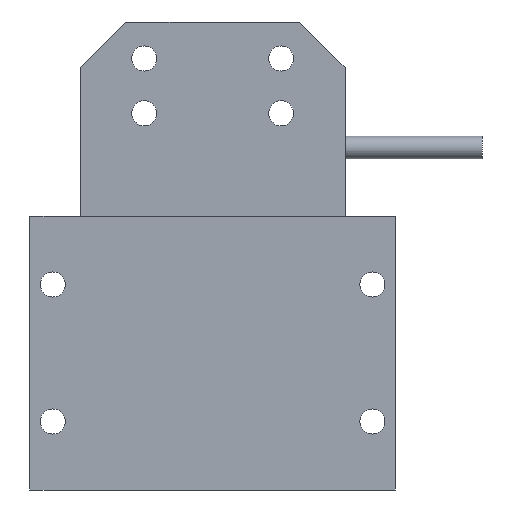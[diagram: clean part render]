
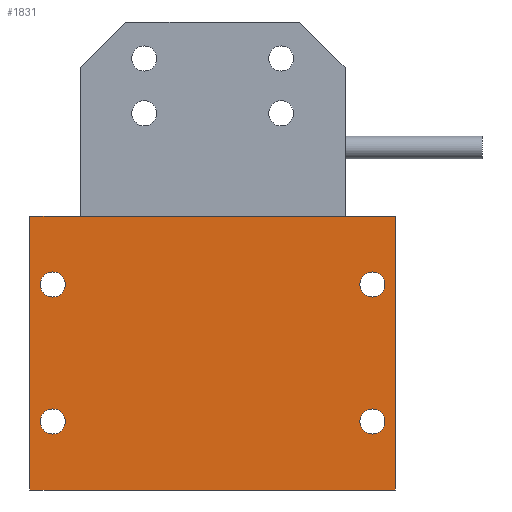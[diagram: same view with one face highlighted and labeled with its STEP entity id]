
A CAD part, front view. The second image highlights one B-rep face of the part: STEP entity #1831.
In plain terms, the highlighted planar face has unit normal (0, -1, 0).
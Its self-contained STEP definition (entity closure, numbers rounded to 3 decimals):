
#22 = DIRECTION ( 'NONE',  ( 0., 1., 0. ) ) ;
#26 = FACE_BOUND ( 'NONE', #895, .T. ) ;
#96 = CARTESIAN_POINT ( 'NONE',  ( 35., -20.25, 45. ) ) ;
#136 = DIRECTION ( 'NONE',  ( 0., 0., 1. ) ) ;
#147 = PLANE ( 'NONE',  #1063 ) ;
#204 = CARTESIAN_POINT ( 'NONE',  ( 35., -20.25, 42.25 ) ) ;
#235 = ORIENTED_EDGE ( 'NONE', *, *, #1340, .F. ) ;
#238 = CARTESIAN_POINT ( 'NONE',  ( -35., -20.25, 12.25 ) ) ;
#245 = FACE_BOUND ( 'NONE', #1366, .T. ) ;
#330 = CIRCLE ( 'NONE', #2151, 2.75 ) ;
#332 = DIRECTION ( 'NONE',  ( 0., 1., 0. ) ) ;
#340 = DIRECTION ( 'NONE',  ( 0., 0., 1. ) ) ;
#350 = DIRECTION ( 'NONE',  ( 0., 1., 0. ) ) ;
#355 = CARTESIAN_POINT ( 'NONE',  ( 40., -20.25, 0. ) ) ;
#385 = VERTEX_POINT ( 'NONE', #2194 ) ;
#392 = CARTESIAN_POINT ( 'NONE',  ( 35., -20.25, 15. ) ) ;
#424 = AXIS2_PLACEMENT_3D ( 'NONE', #965, #1707, #340 ) ;
#426 = CARTESIAN_POINT ( 'NONE',  ( -35., -20.25, 15. ) ) ;
#438 = VERTEX_POINT ( 'NONE', #1261 ) ;
#439 = AXIS2_PLACEMENT_3D ( 'NONE', #2263, #1879, #2271 ) ;
#472 = CIRCLE ( 'NONE', #913, 2.75 ) ;
#486 = VERTEX_POINT ( 'NONE', #1355 ) ;
#496 = EDGE_LOOP ( 'NONE', ( #1827, #989 ) ) ;
#513 = CARTESIAN_POINT ( 'NONE',  ( -40., -20.25, 60. ) ) ;
#519 = DIRECTION ( 'NONE',  ( -1., 0., 0. ) ) ;
#541 = EDGE_CURVE ( 'NONE', #1881, #1040, #1829, .T. ) ;
#563 = CIRCLE ( 'NONE', #1987, 2.75 ) ;
#587 = CARTESIAN_POINT ( 'NONE',  ( -35., -20.25, 45. ) ) ;
#594 = VECTOR ( 'NONE', #1272, 1000. ) ;
#601 = CARTESIAN_POINT ( 'NONE',  ( -35., -20.25, 15. ) ) ;
#604 = VERTEX_POINT ( 'NONE', #1082 ) ;
#605 = DIRECTION ( 'NONE',  ( 0., 0., 1. ) ) ;
#677 = ORIENTED_EDGE ( 'NONE', *, *, #541, .T. ) ;
#690 = DIRECTION ( 'NONE',  ( 0., 1., 0. ) ) ;
#700 = EDGE_CURVE ( 'NONE', #1499, #1503, #472, .T. ) ;
#712 = VECTOR ( 'NONE', #739, 1000. ) ;
#739 = DIRECTION ( 'NONE',  ( 1., 0., 0. ) ) ;
#780 = VECTOR ( 'NONE', #1429, 1000. ) ;
#781 = CARTESIAN_POINT ( 'NONE',  ( -35., -20.25, 17.75 ) ) ;
#837 = DIRECTION ( 'NONE',  ( 0., 0., 1. ) ) ;
#860 = EDGE_LOOP ( 'NONE', ( #1439, #1041, #235, #1085 ) ) ;
#878 = EDGE_CURVE ( 'NONE', #943, #385, #1158, .T. ) ;
#894 = VERTEX_POINT ( 'NONE', #1133 ) ;
#895 = EDGE_LOOP ( 'NONE', ( #677, #1264 ) ) ;
#913 = AXIS2_PLACEMENT_3D ( 'NONE', #426, #1729, #605 ) ;
#920 = EDGE_CURVE ( 'NONE', #486, #1913, #1213, .T. ) ;
#939 = LINE ( 'NONE', #513, #594 ) ;
#943 = VERTEX_POINT ( 'NONE', #1321 ) ;
#965 = CARTESIAN_POINT ( 'NONE',  ( -35., -20.25, 45. ) ) ;
#989 = ORIENTED_EDGE ( 'NONE', *, *, #1163, .T. ) ;
#1001 = DIRECTION ( 'NONE',  ( 0., 0., 1. ) ) ;
#1035 = ORIENTED_EDGE ( 'NONE', *, *, #700, .T. ) ;
#1040 = VERTEX_POINT ( 'NONE', #1068 ) ;
#1041 = ORIENTED_EDGE ( 'NONE', *, *, #1521, .F. ) ;
#1063 = AXIS2_PLACEMENT_3D ( 'NONE', #1894, #332, #519 ) ;
#1068 = CARTESIAN_POINT ( 'NONE',  ( -35., -20.25, 42.25 ) ) ;
#1082 = CARTESIAN_POINT ( 'NONE',  ( -40., -20.25, 60. ) ) ;
#1084 = AXIS2_PLACEMENT_3D ( 'NONE', #587, #22, #1001 ) ;
#1085 = ORIENTED_EDGE ( 'NONE', *, *, #1286, .T. ) ;
#1089 = EDGE_CURVE ( 'NONE', #438, #2097, #1950, .T. ) ;
#1090 = CARTESIAN_POINT ( 'NONE',  ( 40., -20.25, 60. ) ) ;
#1115 = AXIS2_PLACEMENT_3D ( 'NONE', #392, #350, #1644 ) ;
#1133 = CARTESIAN_POINT ( 'NONE',  ( 40., -20.25, 60. ) ) ;
#1158 = CIRCLE ( 'NONE', #439, 2.75 ) ;
#1163 = EDGE_CURVE ( 'NONE', #2097, #438, #563, .T. ) ;
#1175 = DIRECTION ( 'NONE',  ( 0., 0., -1. ) ) ;
#1213 = LINE ( 'NONE', #355, #712 ) ;
#1254 = FACE_BOUND ( 'NONE', #496, .T. ) ;
#1261 = CARTESIAN_POINT ( 'NONE',  ( 35., -20.25, 47.75 ) ) ;
#1264 = ORIENTED_EDGE ( 'NONE', *, *, #1839, .T. ) ;
#1272 = DIRECTION ( 'NONE',  ( 0., 0., -1. ) ) ;
#1286 = EDGE_CURVE ( 'NONE', #604, #486, #939, .T. ) ;
#1289 = LINE ( 'NONE', #1090, #780 ) ;
#1321 = CARTESIAN_POINT ( 'NONE',  ( 35., -20.25, 17.75 ) ) ;
#1340 = EDGE_CURVE ( 'NONE', #604, #894, #1289, .T. ) ;
#1355 = CARTESIAN_POINT ( 'NONE',  ( -40., -20.25, 0. ) ) ;
#1366 = EDGE_LOOP ( 'NONE', ( #2004, #2306 ) ) ;
#1429 = DIRECTION ( 'NONE',  ( 1., 0., 0. ) ) ;
#1439 = ORIENTED_EDGE ( 'NONE', *, *, #920, .T. ) ;
#1463 = CARTESIAN_POINT ( 'NONE',  ( 35., -20.25, 45. ) ) ;
#1493 = ORIENTED_EDGE ( 'NONE', *, *, #2061, .T. ) ;
#1499 = VERTEX_POINT ( 'NONE', #781 ) ;
#1502 = EDGE_LOOP ( 'NONE', ( #1035, #1493 ) ) ;
#1503 = VERTEX_POINT ( 'NONE', #238 ) ;
#1521 = EDGE_CURVE ( 'NONE', #894, #1913, #2102, .T. ) ;
#1597 = VECTOR ( 'NONE', #1175, 1000. ) ;
#1625 = CIRCLE ( 'NONE', #1115, 2.75 ) ;
#1644 = DIRECTION ( 'NONE',  ( 0., 0., 1. ) ) ;
#1707 = DIRECTION ( 'NONE',  ( 0., 1., 0. ) ) ;
#1722 = EDGE_CURVE ( 'NONE', #385, #943, #1625, .T. ) ;
#1729 = DIRECTION ( 'NONE',  ( 0., 1., 0. ) ) ;
#1790 = AXIS2_PLACEMENT_3D ( 'NONE', #1463, #690, #136 ) ;
#1827 = ORIENTED_EDGE ( 'NONE', *, *, #1089, .T. ) ;
#1829 = CIRCLE ( 'NONE', #1084, 2.75 ) ;
#1831 = ADVANCED_FACE ( 'NONE', ( #2417, #26, #1254, #245, #2203 ), #147, .F. ) ;
#1839 = EDGE_CURVE ( 'NONE', #1040, #1881, #1955, .T. ) ;
#1870 = CARTESIAN_POINT ( 'NONE',  ( 40., -20.25, 0. ) ) ;
#1879 = DIRECTION ( 'NONE',  ( 0., 1., 0. ) ) ;
#1881 = VERTEX_POINT ( 'NONE', #2044 ) ;
#1894 = CARTESIAN_POINT ( 'NONE',  ( 40., -20.25, 60. ) ) ;
#1913 = VERTEX_POINT ( 'NONE', #1870 ) ;
#1917 = DIRECTION ( 'NONE',  ( 0., 0., 1. ) ) ;
#1950 = CIRCLE ( 'NONE', #1790, 2.75 ) ;
#1955 = CIRCLE ( 'NONE', #424, 2.75 ) ;
#1987 = AXIS2_PLACEMENT_3D ( 'NONE', #96, #2177, #837 ) ;
#2004 = ORIENTED_EDGE ( 'NONE', *, *, #878, .T. ) ;
#2044 = CARTESIAN_POINT ( 'NONE',  ( -35., -20.25, 47.75 ) ) ;
#2061 = EDGE_CURVE ( 'NONE', #1503, #1499, #330, .T. ) ;
#2097 = VERTEX_POINT ( 'NONE', #204 ) ;
#2098 = DIRECTION ( 'NONE',  ( 0., 1., 0. ) ) ;
#2102 = LINE ( 'NONE', #2110, #1597 ) ;
#2110 = CARTESIAN_POINT ( 'NONE',  ( 40., -20.25, 60. ) ) ;
#2151 = AXIS2_PLACEMENT_3D ( 'NONE', #601, #2098, #1917 ) ;
#2177 = DIRECTION ( 'NONE',  ( 0., 1., 0. ) ) ;
#2194 = CARTESIAN_POINT ( 'NONE',  ( 35., -20.25, 12.25 ) ) ;
#2203 = FACE_OUTER_BOUND ( 'NONE', #860, .T. ) ;
#2263 = CARTESIAN_POINT ( 'NONE',  ( 35., -20.25, 15. ) ) ;
#2271 = DIRECTION ( 'NONE',  ( 0., 0., 1. ) ) ;
#2306 = ORIENTED_EDGE ( 'NONE', *, *, #1722, .T. ) ;
#2417 = FACE_BOUND ( 'NONE', #1502, .T. ) ;
